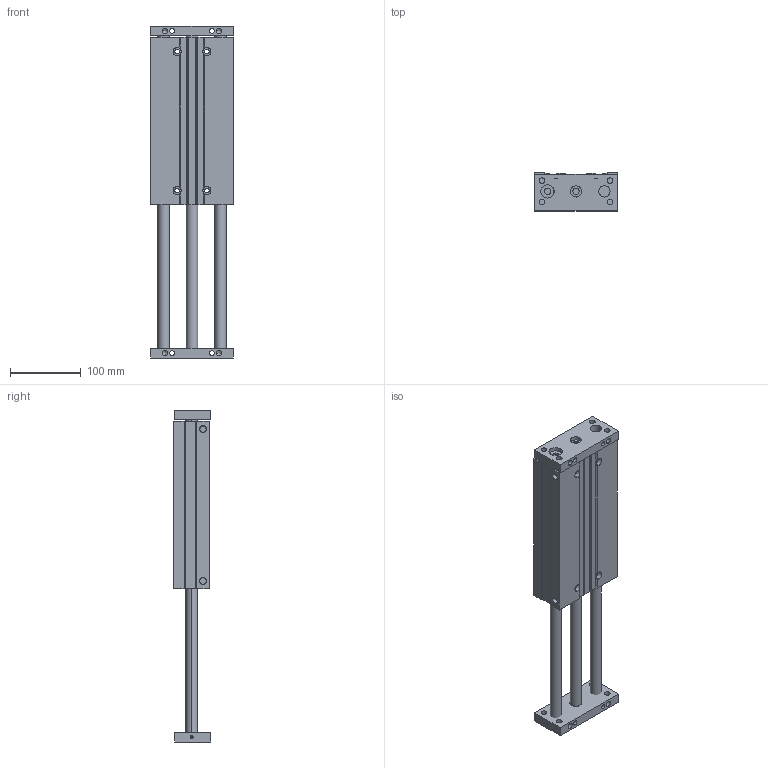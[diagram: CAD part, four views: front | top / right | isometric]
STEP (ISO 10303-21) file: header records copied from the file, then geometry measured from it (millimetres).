
FILE_DESCRIPTION (( 'STEP AP214' ), '1' );
FILE_NAME ('MCGD-23-32-200-NPT.STEP', '2013-10-22T20:43:11', ( 'user' ), ( '' ), 'SwSTEP 2.0', 'SolidWorks 2009', '' );
FILE_SCHEMA (( 'AUTOMOTIVE_DESIGN' ));
Length unit declared in the file: millimetre
Products named in the file (1): MCGD-23-32-200-NPT
Bounding box: 116 x 53 x 468 mm (x, y, z)
Volume: 1037822.7 mm3; surface area: 274531.7 mm2
Topology: 3 solids, 3 shells, 263 faces, 705 edges, 450 vertices
Faces by surface type: cylinder 119, plane 103, cone 41
Entity records: 8356 total; most frequent: CARTESIAN_POINT 1532, DIRECTION 1481, ORIENTED_EDGE 1370, EDGE_CURVE 685, AXIS2_PLACEMENT_3D 547, VERTEX_POINT 450, VECTOR 387, LINE 387
